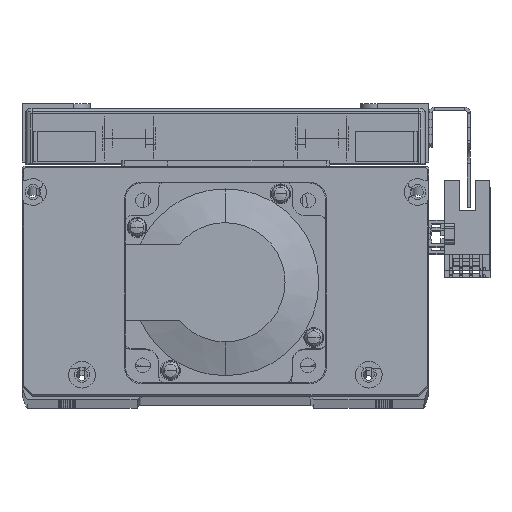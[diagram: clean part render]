
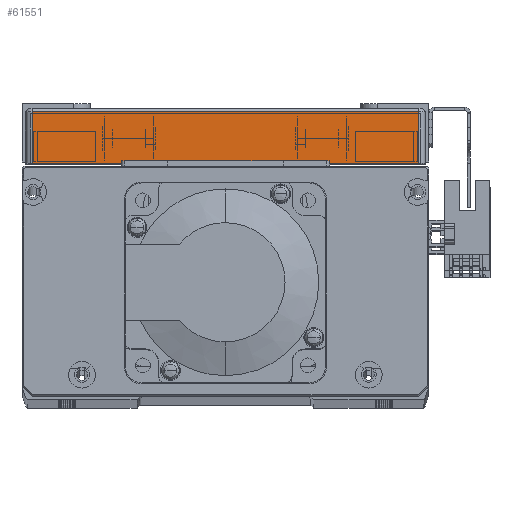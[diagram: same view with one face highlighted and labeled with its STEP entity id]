
A CAD part, top view. The second image highlights one B-rep face of the part: STEP entity #61551.
In plain terms, the highlighted planar face has unit normal (0, 0, 1) as drawn and (1, 0, 0) by its records, which use the part's own axes.
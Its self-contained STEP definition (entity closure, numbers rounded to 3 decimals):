
#3915 = ORIENTED_EDGE ( 'NONE', *, *, #15518, .T. ) ;
#5845 = EDGE_LOOP ( 'NONE', ( #17555, #17591, #3915, #17557 ) ) ;
#11603 = CARTESIAN_POINT ( 'NONE',  ( 85.5, 15.5, 58. ) ) ;
#11609 = DIRECTION ( 'NONE',  ( 0., 0., 1. ) ) ;
#11673 = CARTESIAN_POINT ( 'NONE',  ( 85.5, 16.5, -58. ) ) ;
#11675 = DIRECTION ( 'NONE',  ( 0., 1., 0. ) ) ;
#11679 = DIRECTION ( 'NONE',  ( 0., 0., -1. ) ) ;
#11688 = CARTESIAN_POINT ( 'NONE',  ( 85.5, 0., -60. ) ) ;
#11751 = CARTESIAN_POINT ( 'NONE',  ( 85.5, 16.5, 58. ) ) ;
#11752 = DIRECTION ( 'NONE',  ( 0., -1., 0. ) ) ;
#12333 = LINE ( 'NONE', #11603, #12335 ) ;
#12335 = VECTOR ( 'NONE', #11609, 1000. ) ;
#12387 = VECTOR ( 'NONE', #11679, 1000. ) ;
#12388 = VECTOR ( 'NONE', #11675, 1000. ) ;
#12389 = LINE ( 'NONE', #11673, #12388 ) ;
#12444 = LINE ( 'NONE', #11688, #12387 ) ;
#12554 = VECTOR ( 'NONE', #11752, 1000. ) ;
#12561 = LINE ( 'NONE', #11751, #12554 ) ;
#15436 = EDGE_CURVE ( 'NONE', #45497, #25401, #12333, .T. ) ;
#15470 = EDGE_CURVE ( 'NONE', #25248, #45497, #12389, .T. ) ;
#15471 = EDGE_CURVE ( 'NONE', #25414, #25248, #12444, .T. ) ;
#15518 = EDGE_CURVE ( 'NONE', #25401, #25414, #12561, .T. ) ;
#17555 = ORIENTED_EDGE ( 'NONE', *, *, #15470, .T. ) ;
#17557 = ORIENTED_EDGE ( 'NONE', *, *, #15471, .T. ) ;
#17591 = ORIENTED_EDGE ( 'NONE', *, *, #15436, .T. ) ;
#21285 = CARTESIAN_POINT ( 'NONE',  ( 85.5, 15.5, -58. ) ) ;
#24060 = AXIS2_PLACEMENT_3D ( 'NONE', #26934, #26918, #26969 ) ;
#25248 = VERTEX_POINT ( 'NONE', #57220 ) ;
#25401 = VERTEX_POINT ( 'NONE', #57180 ) ;
#25414 = VERTEX_POINT ( 'NONE', #57250 ) ;
#26918 = DIRECTION ( 'NONE',  ( -1., 0., 0. ) ) ;
#26934 = CARTESIAN_POINT ( 'NONE',  ( 85.5, 16.5, -60. ) ) ;
#26948 = PLANE ( 'NONE',  #24060 ) ;
#26969 = DIRECTION ( 'NONE',  ( 0., 0., 1. ) ) ;
#45497 = VERTEX_POINT ( 'NONE', #21285 ) ;
#56909 = FACE_OUTER_BOUND ( 'NONE', #5845, .T. ) ;
#57180 = CARTESIAN_POINT ( 'NONE',  ( 85.5, 15.5, 58. ) ) ;
#57220 = CARTESIAN_POINT ( 'NONE',  ( 85.5, 0., -58. ) ) ;
#57250 = CARTESIAN_POINT ( 'NONE',  ( 85.5, 0., 58. ) ) ;
#61551 = ADVANCED_FACE ( 'NONE', ( #56909 ), #26948, .F. ) ;
